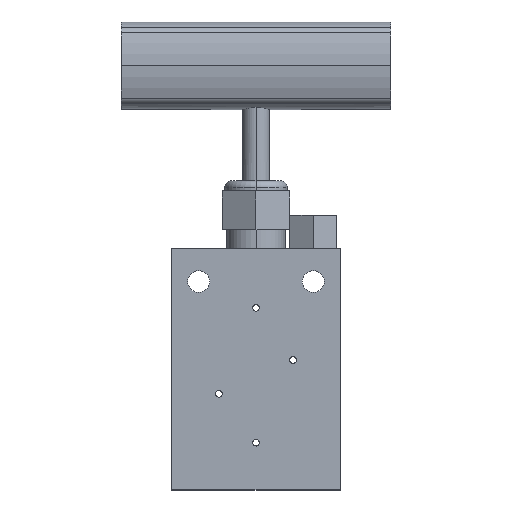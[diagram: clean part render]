
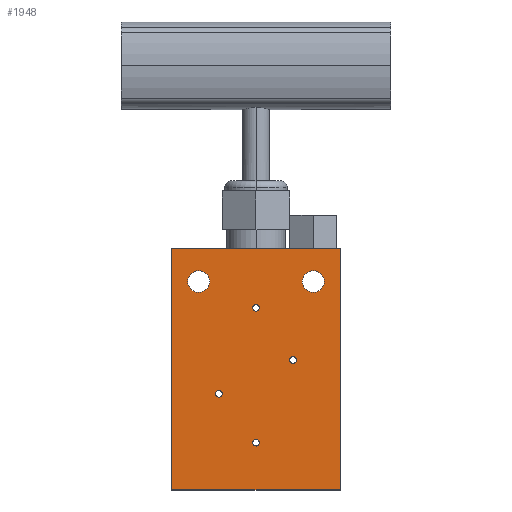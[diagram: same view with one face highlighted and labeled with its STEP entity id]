
A CAD part, top view. The second image highlights one B-rep face of the part: STEP entity #1948.
In plain terms, the highlighted planar face has unit normal (0, 0, 1).
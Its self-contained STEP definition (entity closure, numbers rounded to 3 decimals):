
#7 = ORIENTED_EDGE ( 'NONE', *, *, #2667, .F. ) ;
#46 = DIRECTION ( 'NONE',  ( 1., 0., 0. ) ) ;
#64 = DIRECTION ( 'NONE',  ( -1., 0., 0. ) ) ;
#105 = DIRECTION ( 'NONE',  ( 1., 0., 0. ) ) ;
#130 = CIRCLE ( 'NONE', #366, 1. ) ;
#141 = DIRECTION ( 'NONE',  ( 1., 0., 0. ) ) ;
#161 = ORIENTED_EDGE ( 'NONE', *, *, #2399, .T. ) ;
#170 = ORIENTED_EDGE ( 'NONE', *, *, #3590, .F. ) ;
#178 = FACE_BOUND ( 'NONE', #3475, .T. ) ;
#197 = ORIENTED_EDGE ( 'NONE', *, *, #1407, .F. ) ;
#261 = ORIENTED_EDGE ( 'NONE', *, *, #351, .F. ) ;
#337 = DIRECTION ( 'NONE',  ( -1., 0., 0. ) ) ;
#351 = EDGE_CURVE ( 'NONE', #1103, #620, #1115, .T. ) ;
#355 = AXIS2_PLACEMENT_3D ( 'NONE', #3513, #1268, #2393 ) ;
#366 = AXIS2_PLACEMENT_3D ( 'NONE', #2686, #2990, #141 ) ;
#372 = ORIENTED_EDGE ( 'NONE', *, *, #1579, .F. ) ;
#428 = VERTEX_POINT ( 'NONE', #2375 ) ;
#432 = LINE ( 'NONE', #3550, #2184 ) ;
#462 = EDGE_CURVE ( 'NONE', #962, #3092, #1577, .T. ) ;
#490 = DIRECTION ( 'NONE',  ( 0., 0., 1. ) ) ;
#494 = DIRECTION ( 'NONE',  ( 0., 0., 1. ) ) ;
#500 = CARTESIAN_POINT ( 'NONE',  ( 17., 23.55, 12.5 ) ) ;
#509 = CARTESIAN_POINT ( 'NONE',  ( -11., -9.75, 12.5 ) ) ;
#526 = CIRCLE ( 'NONE', #2605, 3.25 ) ;
#539 = DIRECTION ( 'NONE',  ( 0., 0., 1. ) ) ;
#564 = ORIENTED_EDGE ( 'NONE', *, *, #1906, .F. ) ;
#585 = DIRECTION ( 'NONE',  ( 1., 0., 0. ) ) ;
#589 = DIRECTION ( 'NONE',  ( 0., 0., 1. ) ) ;
#595 = AXIS2_PLACEMENT_3D ( 'NONE', #2097, #3455, #105 ) ;
#620 = VERTEX_POINT ( 'NONE', #1038 ) ;
#712 = AXIS2_PLACEMENT_3D ( 'NONE', #1177, #924, #2896 ) ;
#721 = CIRCLE ( 'NONE', #2753, 3.25 ) ;
#748 = FACE_BOUND ( 'NONE', #3499, .T. ) ;
#765 = AXIS2_PLACEMENT_3D ( 'NONE', #3003, #494, #1851 ) ;
#766 = FACE_BOUND ( 'NONE', #1012, .T. ) ;
#777 = CARTESIAN_POINT ( 'NONE',  ( -1., 15.75, 12.5 ) ) ;
#826 = VERTEX_POINT ( 'NONE', #1979 ) ;
#856 = LINE ( 'NONE', #2214, #1883 ) ;
#865 = CARTESIAN_POINT ( 'NONE',  ( -25., 33.25, 12.5 ) ) ;
#875 = CARTESIAN_POINT ( 'NONE',  ( 11., 0.25, 12.5 ) ) ;
#924 = DIRECTION ( 'NONE',  ( 0., 0., 1. ) ) ;
#945 = AXIS2_PLACEMENT_3D ( 'NONE', #3322, #1612, #1731 ) ;
#962 = VERTEX_POINT ( 'NONE', #3340 ) ;
#966 = EDGE_CURVE ( 'NONE', #3443, #2668, #2521, .T. ) ;
#991 = CARTESIAN_POINT ( 'NONE',  ( 25., 33.25, 12.5 ) ) ;
#994 = CIRCLE ( 'NONE', #355, 3.25 ) ;
#1009 = VECTOR ( 'NONE', #3091, 1000. ) ;
#1012 = EDGE_LOOP ( 'NONE', ( #1319, #261 ) ) ;
#1018 = ORIENTED_EDGE ( 'NONE', *, *, #2712, .T. ) ;
#1038 = CARTESIAN_POINT ( 'NONE',  ( -13.75, 23.55, 12.5 ) ) ;
#1047 = CARTESIAN_POINT ( 'NONE',  ( -20.25, 23.55, 12.5 ) ) ;
#1054 = CARTESIAN_POINT ( 'NONE',  ( 25., -38.25, 12.5 ) ) ;
#1070 = CARTESIAN_POINT ( 'NONE',  ( 10., 0.25, 12.5 ) ) ;
#1088 = VERTEX_POINT ( 'NONE', #777 ) ;
#1103 = VERTEX_POINT ( 'NONE', #1047 ) ;
#1115 = CIRCLE ( 'NONE', #712, 3.25 ) ;
#1163 = ORIENTED_EDGE ( 'NONE', *, *, #462, .F. ) ;
#1177 = CARTESIAN_POINT ( 'NONE',  ( -17., 23.55, 12.5 ) ) ;
#1187 = CIRCLE ( 'NONE', #2305, 1. ) ;
#1204 = VERTEX_POINT ( 'NONE', #2784 ) ;
#1209 = CARTESIAN_POINT ( 'NONE',  ( 12., 0.25, 12.5 ) ) ;
#1255 = CARTESIAN_POINT ( 'NONE',  ( -25., 33.25, 12.5 ) ) ;
#1268 = DIRECTION ( 'NONE',  ( 0., 0., 1. ) ) ;
#1304 = VERTEX_POINT ( 'NONE', #1209 ) ;
#1319 = ORIENTED_EDGE ( 'NONE', *, *, #1512, .F. ) ;
#1325 = CARTESIAN_POINT ( 'NONE',  ( -10., -9.75, 12.5 ) ) ;
#1349 = DIRECTION ( 'NONE',  ( 1., 0., 0. ) ) ;
#1379 = CARTESIAN_POINT ( 'NONE',  ( 25., 33.25, 12.5 ) ) ;
#1407 = EDGE_CURVE ( 'NONE', #428, #1204, #721, .T. ) ;
#1512 = EDGE_CURVE ( 'NONE', #620, #1103, #994, .T. ) ;
#1518 = EDGE_LOOP ( 'NONE', ( #564, #372 ) ) ;
#1538 = VERTEX_POINT ( 'NONE', #1070 ) ;
#1542 = DIRECTION ( 'NONE',  ( 0., -1., 0. ) ) ;
#1544 = EDGE_CURVE ( 'NONE', #1204, #428, #526, .T. ) ;
#1550 = CARTESIAN_POINT ( 'NONE',  ( 0., 0., 12.5 ) ) ;
#1565 = PLANE ( 'NONE',  #3503 ) ;
#1577 = CIRCLE ( 'NONE', #3504, 1. ) ;
#1579 = EDGE_CURVE ( 'NONE', #1088, #826, #1997, .T. ) ;
#1594 = ORIENTED_EDGE ( 'NONE', *, *, #966, .T. ) ;
#1612 = DIRECTION ( 'NONE',  ( 0., 0., 1. ) ) ;
#1622 = DIRECTION ( 'NONE',  ( 0., 0., 1. ) ) ;
#1653 = AXIS2_PLACEMENT_3D ( 'NONE', #3063, #589, #2802 ) ;
#1658 = VERTEX_POINT ( 'NONE', #2304 ) ;
#1659 = CARTESIAN_POINT ( 'NONE',  ( -25., -38.25, 12.5 ) ) ;
#1716 = EDGE_LOOP ( 'NONE', ( #3420, #7 ) ) ;
#1731 = DIRECTION ( 'NONE',  ( 1., 0., 0. ) ) ;
#1761 = EDGE_CURVE ( 'NONE', #1538, #1304, #2646, .T. ) ;
#1836 = CIRCLE ( 'NONE', #1653, 1. ) ;
#1851 = DIRECTION ( 'NONE',  ( 1., 0., 0. ) ) ;
#1855 = EDGE_LOOP ( 'NONE', ( #1018, #161, #3112, #1594 ) ) ;
#1858 = DIRECTION ( 'NONE',  ( -1., 0., 0. ) ) ;
#1868 = FACE_BOUND ( 'NONE', #1716, .T. ) ;
#1881 = CARTESIAN_POINT ( 'NONE',  ( -1., -24.25, 12.5 ) ) ;
#1883 = VECTOR ( 'NONE', #585, 1000. ) ;
#1885 = FACE_BOUND ( 'NONE', #1518, .T. ) ;
#1906 = EDGE_CURVE ( 'NONE', #826, #1088, #2758, .T. ) ;
#1948 = ADVANCED_FACE ( 'NONE', ( #1885, #1868, #2153, #748, #766, #178, #2426 ), #1565, .T. ) ;
#1979 = CARTESIAN_POINT ( 'NONE',  ( 1., 15.75, 12.5 ) ) ;
#1980 = DIRECTION ( 'NONE',  ( 0., 0., 1. ) ) ;
#1997 = CIRCLE ( 'NONE', #945, 1. ) ;
#2050 = ORIENTED_EDGE ( 'NONE', *, *, #2062, .F. ) ;
#2062 = EDGE_CURVE ( 'NONE', #1304, #1538, #2301, .T. ) ;
#2088 = CARTESIAN_POINT ( 'NONE',  ( 17., 23.55, 12.5 ) ) ;
#2097 = CARTESIAN_POINT ( 'NONE',  ( 11., 0.25, 12.5 ) ) ;
#2143 = EDGE_LOOP ( 'NONE', ( #2050, #3597 ) ) ;
#2153 = FACE_BOUND ( 'NONE', #2143, .T. ) ;
#2181 = CARTESIAN_POINT ( 'NONE',  ( 0., -24.25, 12.5 ) ) ;
#2184 = VECTOR ( 'NONE', #1542, 1000. ) ;
#2214 = CARTESIAN_POINT ( 'NONE',  ( -25., -38.25, 12.5 ) ) ;
#2281 = VERTEX_POINT ( 'NONE', #1054 ) ;
#2286 = VERTEX_POINT ( 'NONE', #1881 ) ;
#2301 = CIRCLE ( 'NONE', #3450, 1. ) ;
#2304 = CARTESIAN_POINT ( 'NONE',  ( 1., -24.25, 12.5 ) ) ;
#2305 = AXIS2_PLACEMENT_3D ( 'NONE', #2181, #490, #2727 ) ;
#2319 = EDGE_CURVE ( 'NONE', #1658, #2286, #1187, .T. ) ;
#2363 = VECTOR ( 'NONE', #337, 1000. ) ;
#2375 = CARTESIAN_POINT ( 'NONE',  ( 20.25, 23.55, 12.5 ) ) ;
#2393 = DIRECTION ( 'NONE',  ( 1., 0., 0. ) ) ;
#2399 = EDGE_CURVE ( 'NONE', #3255, #2281, #856, .T. ) ;
#2426 = FACE_OUTER_BOUND ( 'NONE', #1855, .T. ) ;
#2448 = ORIENTED_EDGE ( 'NONE', *, *, #1544, .F. ) ;
#2503 = LINE ( 'NONE', #1379, #1009 ) ;
#2521 = LINE ( 'NONE', #865, #2363 ) ;
#2605 = AXIS2_PLACEMENT_3D ( 'NONE', #500, #539, #64 ) ;
#2646 = CIRCLE ( 'NONE', #595, 1. ) ;
#2667 = EDGE_CURVE ( 'NONE', #2286, #1658, #130, .T. ) ;
#2668 = VERTEX_POINT ( 'NONE', #1255 ) ;
#2686 = CARTESIAN_POINT ( 'NONE',  ( 0., -24.25, 12.5 ) ) ;
#2696 = DIRECTION ( 'NONE',  ( 1., 0., 0. ) ) ;
#2712 = EDGE_CURVE ( 'NONE', #2668, #3255, #432, .T. ) ;
#2727 = DIRECTION ( 'NONE',  ( 1., 0., 0. ) ) ;
#2747 = EDGE_CURVE ( 'NONE', #2281, #3443, #2503, .T. ) ;
#2753 = AXIS2_PLACEMENT_3D ( 'NONE', #2088, #3491, #1858 ) ;
#2758 = CIRCLE ( 'NONE', #765, 1. ) ;
#2784 = CARTESIAN_POINT ( 'NONE',  ( 13.75, 23.55, 12.5 ) ) ;
#2802 = DIRECTION ( 'NONE',  ( 1., 0., 0. ) ) ;
#2896 = DIRECTION ( 'NONE',  ( 1., 0., 0. ) ) ;
#2983 = DIRECTION ( 'NONE',  ( 0., 0., 1. ) ) ;
#2990 = DIRECTION ( 'NONE',  ( 0., 0., 1. ) ) ;
#3003 = CARTESIAN_POINT ( 'NONE',  ( 0., 15.75, 12.5 ) ) ;
#3063 = CARTESIAN_POINT ( 'NONE',  ( -11., -9.75, 12.5 ) ) ;
#3091 = DIRECTION ( 'NONE',  ( 0., 1., 0. ) ) ;
#3092 = VERTEX_POINT ( 'NONE', #1325 ) ;
#3112 = ORIENTED_EDGE ( 'NONE', *, *, #2747, .T. ) ;
#3255 = VERTEX_POINT ( 'NONE', #1659 ) ;
#3322 = CARTESIAN_POINT ( 'NONE',  ( 0., 15.75, 12.5 ) ) ;
#3340 = CARTESIAN_POINT ( 'NONE',  ( -12., -9.75, 12.5 ) ) ;
#3420 = ORIENTED_EDGE ( 'NONE', *, *, #2319, .F. ) ;
#3443 = VERTEX_POINT ( 'NONE', #991 ) ;
#3450 = AXIS2_PLACEMENT_3D ( 'NONE', #875, #1980, #46 ) ;
#3455 = DIRECTION ( 'NONE',  ( 0., 0., 1. ) ) ;
#3475 = EDGE_LOOP ( 'NONE', ( #197, #2448 ) ) ;
#3491 = DIRECTION ( 'NONE',  ( 0., 0., 1. ) ) ;
#3499 = EDGE_LOOP ( 'NONE', ( #170, #1163 ) ) ;
#3503 = AXIS2_PLACEMENT_3D ( 'NONE', #1550, #2983, #2696 ) ;
#3504 = AXIS2_PLACEMENT_3D ( 'NONE', #509, #1622, #1349 ) ;
#3513 = CARTESIAN_POINT ( 'NONE',  ( -17., 23.55, 12.5 ) ) ;
#3550 = CARTESIAN_POINT ( 'NONE',  ( -25., 33.25, 12.5 ) ) ;
#3590 = EDGE_CURVE ( 'NONE', #3092, #962, #1836, .T. ) ;
#3597 = ORIENTED_EDGE ( 'NONE', *, *, #1761, .F. ) ;
